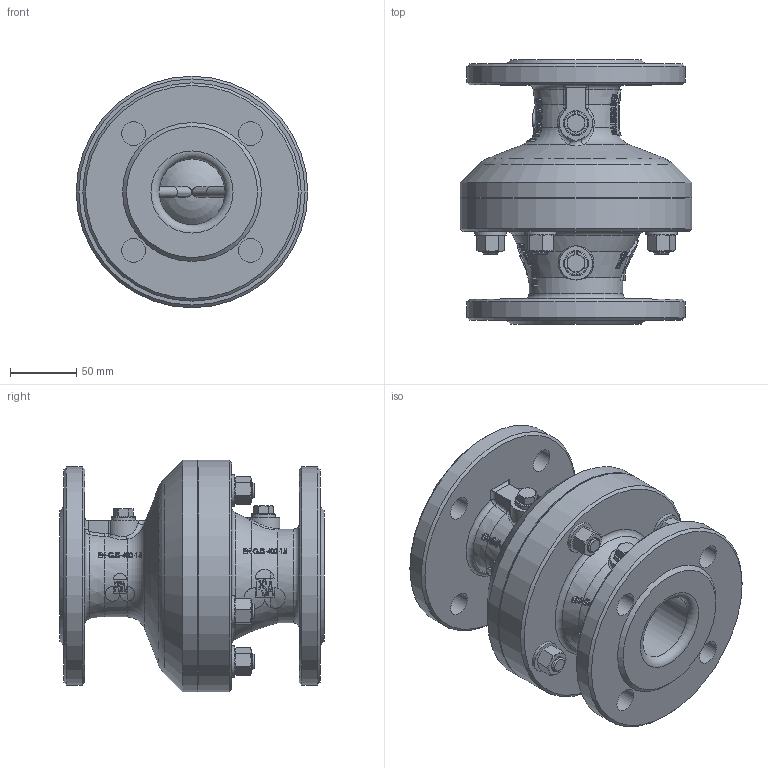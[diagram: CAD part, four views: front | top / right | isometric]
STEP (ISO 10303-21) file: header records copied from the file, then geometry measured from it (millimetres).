
FILE_DESCRIPTION(/* description */ ('PSA Hydro-Stop DN50 PN16'),/* implementation_level */ '2;1');
FILE_NAME(/* name */ 'PSA_Hydro-Stop_DN50',/* time_stamp */ '2024-10-08T16:41:43+02:00',/* author */ ('Christin-Michelle Fremgen'),/* organization */ ('PSA Wasserarmaturen GmbH'),/* preprocessor_version */ 'ST-DEVELOPER v18.104',/* originating_system */ 'Solid Edge',/* authorisation */ 'Unknown');
FILE_SCHEMA (('AUTOMOTIVE_DESIGN {1 0 10303 214 3 1 1}'));
Products named in the file (1): PSA_Hydro-Stop_DN50
Bounding box: 175 x 200 x 175 mm (x, y, z)
Volume: 2258838.1 mm3; surface area: 217183.4 mm2
Topology: 1 solids, 36 shells, 1297 faces, 3331 edges, 2163 vertices
Faces by surface type: plane 484, bspline 330, cone 305, cylinder 145, torus 28, sphere 5
Full cylindrical faces by diameter (mm): 10.2 x28, 11.445 x1, 12 x24, 13 x4, 14 x6, 18 x10, 19 x2, 24 x4, 50 x2, 71 x1, 165 x2, 175 x2
Entity records: 62869 total; most frequent: CARTESIAN_POINT 26545, ORIENTED_EDGE 5914, DIRECTION 4558, EDGE_CURVE 2957, VERTEX_POINT 2047, AXIS2_PLACEMENT_3D 1823, EDGE_LOOP 1696, FACE_BOUND 1696
